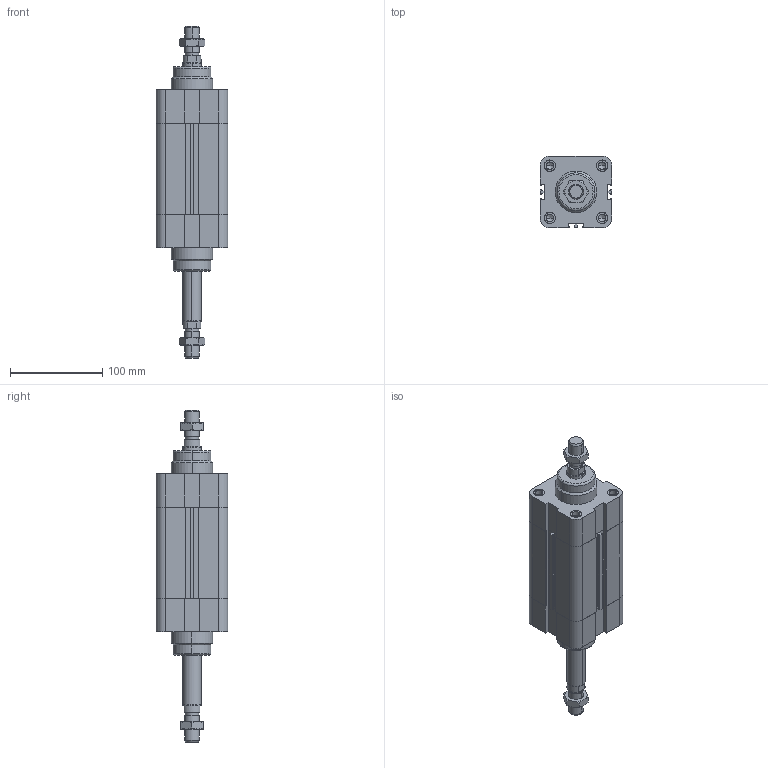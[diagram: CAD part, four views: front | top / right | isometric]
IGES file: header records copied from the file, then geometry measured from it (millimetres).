
Global section: file name: No Iges File Name specified; native system: Autodesk Inventor 2010; preprocessor: AutoDesk Inventor Iges Exporter R2010; author: rivolro1; date: 20090707.105747; units: millimetre
Bounding box: 77.5 x 77.5 x 359 mm (x, y, z)
Volume: 936952 mm3; surface area: 166594 mm2
Topology: 6 solids, 6 shells, 343 faces, 810 edges, 508 vertices
Faces by surface type: plane 137, bspline 86, cylinder 58, cone 38, revolution 20, torus 4
